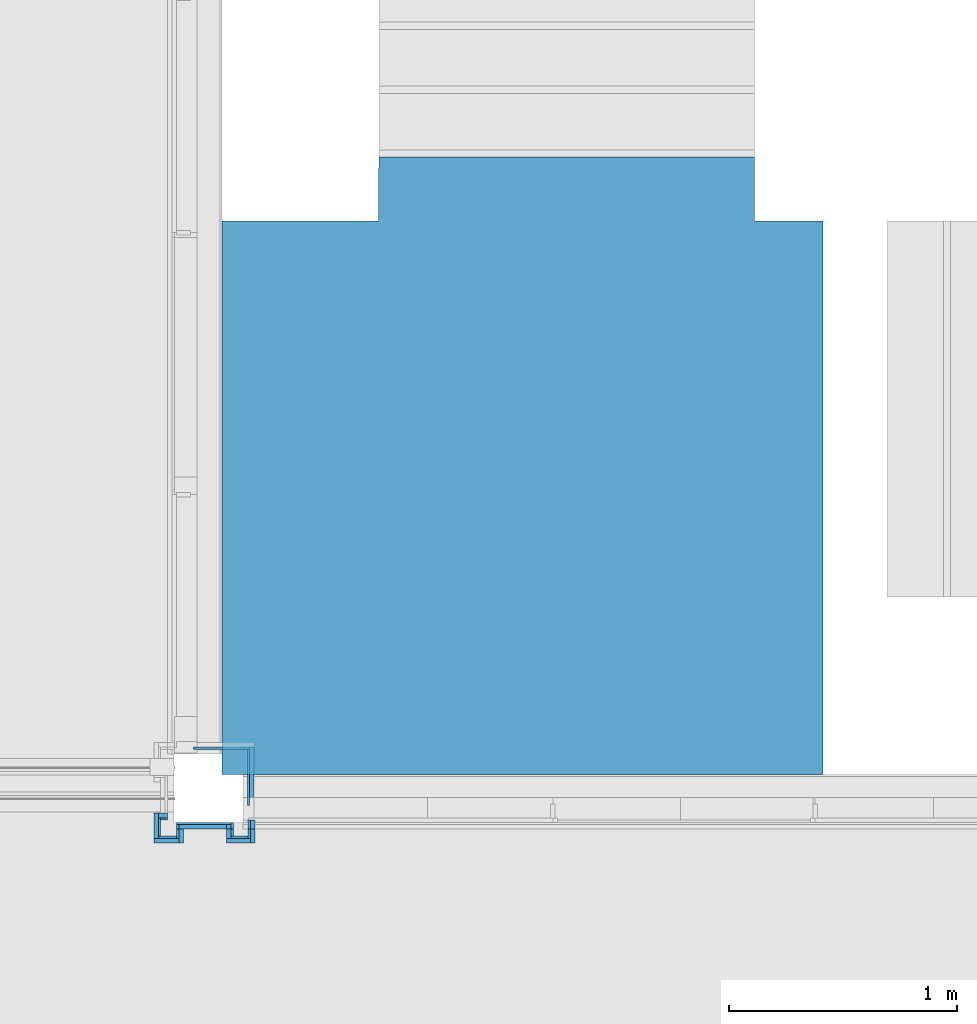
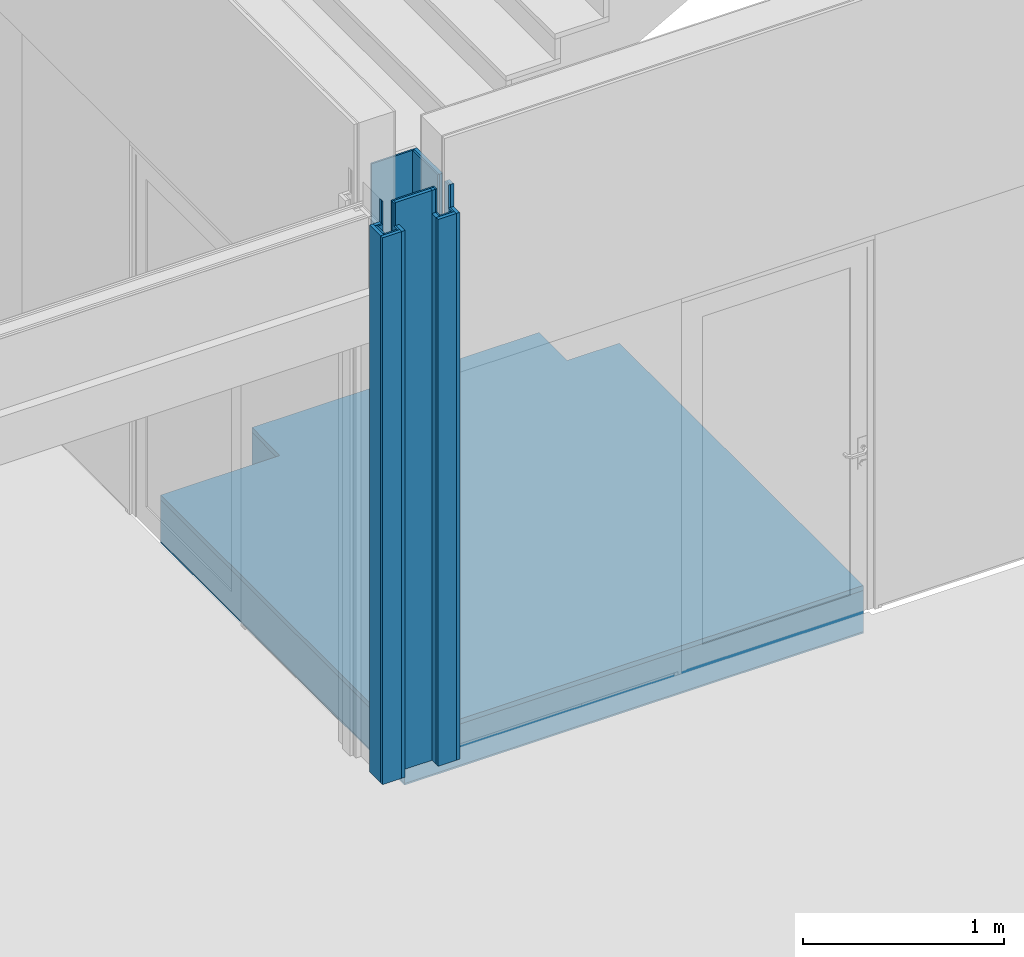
# One storey, part 77 of 139: 22 building element parts, 11 elements without a shape of their own.
"""IFC2X3 building model written with IfcOpenShell, lengths in millimetres."""

import ifcopenshell
import ifcopenshell.guid

model = None  # the IFC model being written
_history = None  # IfcOwnerHistory: only IFC2X3 demands one
_inside = {}  # id of a spatial element -> (the spatial element, [elements in it])
_under = {}  # id of a project, library or spatial element -> (it, [spatial elements below it])
_declared = {}  # id of a project -> (the project, [libraries it declares])
_typed = {}  # id of a type object -> (the type object, [elements of that type])
_made_of = {}  # id of a material, layer set ... -> (it, [elements and type objects made of it])


def new_model(schema):
    """Start an empty IFC model of exactly this schema.

    Asked for "IFC4X3", IfcOpenShell would pick the latest addendum, in which some entities
    have other attributes; the version numbers below select the first issue.
    IFC2X3 requires an IfcOwnerHistory on every rooted entity: one is made here for all.
    """
    global model, _history
    if schema == "IFC4X3":
        model = ifcopenshell.file(schema_version=(4, 3, 0, 0))
    else:
        model = ifcopenshell.file(schema=schema)
    _inside.clear()
    _under.clear()
    _declared.clear()
    _typed.clear()
    _made_of.clear()
    _history = None
    if model.schema == "IFC2X3":
        org = make("IfcOrganization", Name="unknown")
        user = make(
            "IfcPersonAndOrganization",
            ThePerson=make("IfcPerson", FamilyName="unknown"),
            TheOrganization=org,
        )
        app = make(
            "IfcApplication",
            ApplicationDeveloper=org,
            Version="unknown",
            ApplicationFullName="unknown",
            ApplicationIdentifier="unknown",
        )
        _history = make(
            "IfcOwnerHistory",
            OwningUser=user,
            OwningApplication=app,
            ChangeAction="ADDED",
            CreationDate=0,
        )
    return model


def make(cls, **values):
    """One entity of the class cls with the attributes given. An attribute that is None is left unset."""
    return model.create_entity(
        cls, **{name: value for name, value in values.items() if value is not None}
    )


def entity(cls, *values):
    """Any entity or typed value of the class cls, its attributes in the order of the schema. None: left unset."""
    e = model.create_entity(cls)
    for i, value in enumerate(values):
        if value is not None:
            e[i] = value
    return e


def rooted(cls, **values):
    """An entity with a GlobalId (a new one), such as an element, a storey or a relation."""
    return make(cls, GlobalId=ifcopenshell.guid.new(), OwnerHistory=_history, **values)


def si_unit(unit_type, name, prefix=None):
    """IfcSIUnit, for example si_unit("LENGTHUNIT", "METRE", prefix="MILLI")."""
    return make("IfcSIUnit", UnitType=unit_type, Prefix=prefix, Name=name)


def converted_unit(unit_type, name, factor, base, dimensions=None, offset=None):
    """IfcConversionBasedUnit, such as the inch: factor (a typed value) times the base unit."""
    return make(
        "IfcConversionBasedUnit"
        if offset is None
        else "IfcConversionBasedUnitWithOffset",
        ConversionOffset=offset,
        Dimensions=None
        if dimensions is None
        else entity("IfcDimensionalExponents", *dimensions),
        UnitType=unit_type,
        Name=name,
        ConversionFactor=make(
            "IfcMeasureWithUnit", ValueComponent=factor, UnitComponent=base
        ),
    )


def derived_unit(unit_type, elements):
    """IfcDerivedUnit: a product of units, each with its exponent."""
    return make(
        "IfcDerivedUnit",
        Elements=[
            make("IfcDerivedUnitElement", Unit=unit, Exponent=power)
            for unit, power in elements
        ],
        UnitType=unit_type,
    )


def money_unit(currency):
    """IfcMonetaryUnit."""
    return make("IfcMonetaryUnit", Currency=currency)


def assignment(units):
    """IfcUnitAssignment: the units of a project."""
    return None if units is None else make("IfcUnitAssignment", Units=units)


def point(xyz):
    """IfcCartesianPoint."""
    return None if xyz is None else make("IfcCartesianPoint", Coordinates=xyz)


def direction(xyz):
    """IfcDirection."""
    return None if xyz is None else make("IfcDirection", DirectionRatios=xyz)


def frame(location, z_axis=None, x_axis=None):
    """IfcAxis2Placement3D, a coordinate frame: its origin and axes. An axis left out is left unset."""
    return make(
        "IfcAxis2Placement3D",
        Location=point(location),
        Axis=direction(z_axis),
        RefDirection=direction(x_axis),
    )


def origin_with_axes():
    """The frame at (0, 0, 0) with the z axis (0, 0, 1) and the x axis (1, 0, 0) written out."""
    return frame((0.0, 0.0, 0.0), z_axis=(0.0, 0.0, 1.0), x_axis=(1.0, 0.0, 0.0))


def place(relative_to, where):
    """IfcLocalPlacement: puts the frame where relative to a parent placement (None: the world)."""
    return make(
        "IfcLocalPlacement", PlacementRelTo=relative_to, RelativePlacement=where
    )


def context(
    kind, dimensions, precision=None, world=None, true_north=None, identifier=None
):
    """IfcGeometricRepresentationContext, for example the 3D "Model" context."""
    return make(
        "IfcGeometricRepresentationContext",
        ContextIdentifier=identifier,
        ContextType=kind,
        CoordinateSpaceDimension=dimensions,
        Precision=precision,
        WorldCoordinateSystem=world,
        TrueNorth=true_north,
    )


def subcontext(parent, identifier, kind, view, scale=None):
    """IfcGeometricRepresentationSubContext, for example "Body" below "Model"."""
    return make(
        "IfcGeometricRepresentationSubContext",
        ContextIdentifier=identifier,
        ContextType=kind,
        ParentContext=parent,
        TargetScale=scale,
        TargetView=view,
    )


def project(units=None, contexts=None):
    """IfcProject with its units and contexts."""
    return rooted(
        "IfcProject",
        Name="project",
        RepresentationContexts=contexts,
        UnitsInContext=assignment(units),
    )


def spatial(cls, under=None, at=None, **own):
    """A site, building, storey or space (cls), placed at a placement, below another one or the project."""
    s = rooted(cls, ObjectPlacement=at, **own)
    if under is not None:
        _under.setdefault(under.id(), (under, []))[1].append(s)
    return s


def faces_of(points, faces, orient=None, outer=None):
    """IfcFace entities. A face is a list of loops; a loop is a list of indices into points, from 0.

    orient and outer hold one flag for each loop. By default every Orientation is true, the
    first loop of a face is its IfcFaceOuterBound and the others are IfcFaceBound.
    """
    made = []
    for i, loops in enumerate(faces):
        bounds = []
        for j, loop in enumerate(loops):
            is_outer = j == 0 if outer is None else outer[i][j]
            bounds.append(
                make(
                    "IfcFaceOuterBound" if is_outer else "IfcFaceBound",
                    Bound=make("IfcPolyLoop", Polygon=[points[k] for k in loop]),
                    Orientation=True if orient is None else orient[i][j],
                )
            )
        made.append(make("IfcFace", Bounds=bounds))
    return made


def faceted_brep(points, faces, orient=None, outer=None, voids=None):
    """IfcFacetedBrep: a solid bounded by flat faces; with voids (closed shells), ...WithVoids."""
    shared = [point(p) for p in points]
    hull = make("IfcClosedShell", CfsFaces=faces_of(shared, faces, orient, outer))
    if voids is None:
        return make("IfcFacetedBrep", Outer=hull)
    return make(
        "IfcFacetedBrepWithVoids",
        Outer=hull,
        Voids=[
            make(cls, CfsFaces=faces_of(shared, fs, o, b)) for cls, fs, o, b in voids
        ],
    )


def shape(context_of_items, identifier, shape_type, items):
    """IfcShapeRepresentation: the items that make up one representation, for example the "Body"."""
    return make(
        "IfcShapeRepresentation",
        ContextOfItems=context_of_items,
        RepresentationIdentifier=identifier,
        RepresentationType=shape_type,
        Items=items,
    )


def material(Name=None, Category=None):
    """IfcMaterial."""
    return make("IfcMaterial", Name=Name, Category=Category)


def made_of(thing, what):
    """Note that an element or type object is made of a material, layer set ...; save() writes the relation."""
    if what is not None:
        _made_of.setdefault(what.id(), (what, []))[1].append(thing)
    return thing


def type_object(cls, material=None, **own):
    """A type object (cls), such as IfcWallType, which elements share."""
    return made_of(rooted(cls, **own), material)


def element(
    cls,
    number,
    at=None,
    inside=None,
    cuts=None,
    type_object=None,
    material=None,
    context=None,
    identifier="Body",
    shape_type=None,
    held_by="IfcProductDefinitionShape",
    body=None,
    shapes=None,
    **own,
):
    """One element of the class cls, such as IfcWall. Its Tag is "e" and its number.

    at: its placement. inside: the storey or other place that contains it. cuts: it is an
    opening in that element (IfcRelVoidsElement). A single representation is given by context,
    identifier, shape_type and body (its items); several are given by shapes. held_by: the class
    of the entity that holds the representations. save() writes the other relations.
    """
    e = rooted(cls, Tag="e%d" % number, ObjectPlacement=at, **own)
    if body is not None:
        shapes = [shape(context, identifier, shape_type, body)]
    if shapes is not None:
        e.Representation = make(held_by, Representations=shapes)
    if inside is not None:
        _inside.setdefault(inside.id(), (inside, []))[1].append(e)
    if cuts is not None:
        rooted(
            "IfcRelVoidsElement", RelatingBuildingElement=cuts, RelatedOpeningElement=e
        )
    if type_object is not None:
        _typed.setdefault(type_object.id(), (type_object, []))[1].append(e)
    return made_of(e, material)


def aggregate(whole, parts):
    """IfcRelAggregates: a whole, such as a stair, and the parts it consists of."""
    return rooted("IfcRelAggregates", RelatingObject=whole, RelatedObjects=parts)


def save(model, path):
    """Write the relations noted so far, then the file.

    IfcRelAggregates (storeys below a building ...), IfcRelContainedInSpatialStructure (elements
    in a storey), IfcRelDefinesByType, IfcRelAssociatesMaterial and IfcRelDeclares: one each for
    every whole, place, type object, material and project.
    """
    for whole, parts in _under.values():
        aggregate(whole, parts)
    for where, things in _inside.values():
        rooted(
            "IfcRelContainedInSpatialStructure",
            RelatedElements=things,
            RelatingStructure=where,
        )
    for kind, things in _typed.values():
        rooted("IfcRelDefinesByType", RelatedObjects=things, RelatingType=kind)
    for what, things in _made_of.values():
        rooted("IfcRelAssociatesMaterial", RelatedObjects=things, RelatingMaterial=what)
    for by, libraries in _declared.values():
        rooted("IfcRelDeclares", RelatingContext=by, RelatedDefinitions=libraries)
    model.write(path)


model = new_model("IFC2X3")

# Units and contexts
model_context = context("Model", 3, precision=0.01, world=origin_with_axes(), true_north=direction((0.0, 1.0)))
body_context = subcontext(model_context, "Body", "Model", "MODEL_VIEW")
ifc_project = project(units=[si_unit("LENGTHUNIT", "METRE", prefix="MILLI"), si_unit("AREAUNIT", "SQUARE_METRE"), si_unit("VOLUMEUNIT", "CUBIC_METRE"), converted_unit("PLANEANGLEUNIT", "DEGREE", entity("IfcPlaneAngleMeasure", 0.0174532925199), si_unit("PLANEANGLEUNIT", "RADIAN"), dimensions=[0, 0, 0, 0, 0, 0, 0]), money_unit("EUR"), converted_unit("TIMEUNIT", "Year", entity("IfcTimeMeasure", 31556926.0), si_unit("TIMEUNIT", "SECOND"), dimensions=[0, 0, 1, 0, 0, 0, 0]), si_unit("MASSUNIT", "GRAM", prefix="KILO"), si_unit("THERMODYNAMICTEMPERATUREUNIT", "DEGREE_CELSIUS"), si_unit("LUMINOUSINTENSITYUNIT", "LUMEN"), si_unit("ENERGYUNIT", "JOULE", prefix="MEGA"), derived_unit("THERMALCONDUCTANCEUNIT", [(si_unit("POWERUNIT", "WATT"), 1), (si_unit("LENGTHUNIT", "METRE"), -1), (si_unit("THERMODYNAMICTEMPERATUREUNIT", "KELVIN"), -1)]), derived_unit("SPECIFICHEATCAPACITYUNIT", [(si_unit("ENERGYUNIT", "JOULE"), 1), (si_unit("MASSUNIT", "GRAM", prefix="KILO"), -1), (si_unit("THERMODYNAMICTEMPERATUREUNIT", "KELVIN"), -1)]), derived_unit("MASSDENSITYUNIT", [(si_unit("MASSUNIT", "GRAM", prefix="KILO"), 1), (si_unit("VOLUMEUNIT", "CUBIC_METRE"), -1)])], contexts=[model_context])

# Site, building, storey
site_placement = place(None, origin_with_axes())
site = spatial("IfcSite", under=ifc_project, at=site_placement, Name="Kolde pst 67a", CompositionType="ELEMENT")
building_placement = place(site_placement, origin_with_axes())
building = spatial("IfcBuilding", under=site, at=building_placement, Name="Riigigümnaasium", CompositionType="ELEMENT")
storey_placement = place(building_placement, frame((0.0, 0.0, 4600.0), z_axis=(0.0, 0.0, 1.0), x_axis=(1.0, 0.0, 0.0)))
storey = spatial("IfcBuildingStorey", under=building, at=storey_placement, Name="2. korrus", CompositionType="ELEMENT", Elevation=4600.0)

# Slab, building element parts
slab_type = type_object("IfcSlabType", Name="VL-RB-25/1_+puitkilp trepikodades 290", PredefinedType="NOTDEFINED")
slab_placement = place(storey_placement, frame((52829.9941077, 28829.9996998, 0.0), z_axis=(0.0, 0.0, 1.0), x_axis=(1.0, 0.0, 0.0)))
slab = element("IfcSlab", 1, at=slab_placement, inside=storey, type_object=slab_type, Name="VAHELAGI", PredefinedType="NOTDEFINED")
ifc_material_1 = material(Name="_VIIMISTLUSKIHT - viimistlus vastavalt SA osale")
building_element_part_1_placement = place(slab_placement, origin_with_axes())
building_element_part_1 = element("IfcBuildingElementPart", 2, at=building_element_part_1_placement, material=ifc_material_1, Name="_VIIMISTLUSKIHT - viimistlus vastavalt SA osale", context=body_context, shape_type="Brep", body=[
    faceted_brep([(2634.99280441, 0.0, -30.0), (2634.99280441, 0.0, 0.0), (0.0, 0.0, 0.0), (0.0, 0.0, -30.0), (2634.98381669, 2427.46173926, -30.0), (2634.98381669, 2427.46173926, 0.0), (2334.80656677, 2427.44522128, 0.0), (2334.80656677, 2707.46872414, 0.0), (686.758389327, 2707.46872414, 0.0), (684.927526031, 2427.46173926, 0.0), (4.04852258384e-05, 2427.46173926, 0.0), (4.04852258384e-05, 2427.46173926, -30.0), (684.927526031, 2427.46173926, -30.0), (686.758389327, 2707.46872414, -30.0), (2334.80656677, 2707.46872414, -30.0), (2334.80656677, 2427.44522128, -30.0)], [[[0, 1, 2, 3]], [[4, 5, 1, 0]], [[2, 1, 5, 6, 7, 8, 9, 10]], [[3, 2, 10, 11]], [[3, 11, 12, 13, 14, 15, 4, 0]], [[15, 6, 5, 4]], [[14, 7, 6, 15]], [[13, 8, 7, 14]], [[12, 9, 8, 13]], [[11, 10, 9, 12]]]),
])
ifc_material_2 = material(Name="_KANDETARIND - monteeritav raudbetoon vastavalt EK osale")
building_element_part_2_placement = place(slab_placement, origin_with_axes())
building_element_part_2 = element("IfcBuildingElementPart", 3, at=building_element_part_2_placement, material=ifc_material_2, Name="_KANDETARIND - monteeritav raudbetoon vastavalt EK osale", context=body_context, shape_type="Brep", body=[
    faceted_brep([(2634.99280441, 0.0, -280.0), (2634.99280441, 0.0, -30.0), (0.0, 0.0, -30.0), (0.0, 0.0, -280.0), (2634.98381669, 2427.46173926, -280.0), (2634.98381669, 2427.46173926, -30.0), (2334.80656677, 2427.44522128, -30.0), (2334.80656677, 2707.46872414, -30.0), (686.758389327, 2707.46872414, -30.0), (684.927526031, 2427.46173926, -30.0), (4.04852258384e-05, 2427.46173926, -30.0), (4.04852258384e-05, 2427.46173926, -280.0), (684.927526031, 2427.46173926, -280.0), (686.758389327, 2707.46872414, -280.0), (2334.80656677, 2707.46872414, -280.0), (2334.80656677, 2427.44522128, -280.0)], [[[0, 1, 2, 3]], [[4, 5, 1, 0]], [[2, 1, 5, 6, 7, 8, 9, 10]], [[3, 2, 10, 11]], [[3, 11, 12, 13, 14, 15, 4, 0]], [[15, 6, 5, 4]], [[14, 7, 6, 15]], [[13, 8, 7, 14]], [[12, 9, 8, 13]], [[11, 10, 9, 12]]]),
])
building_element_part_3_placement = place(slab_placement, origin_with_axes())
building_element_part_3 = element("IfcBuildingElementPart", 4, at=building_element_part_3_placement, material=ifc_material_1, Name="_VIIMISTLUSKIHT - viimistlus vastavalt SA osale", context=body_context, shape_type="Brep", body=[
    faceted_brep([(0.0, 0.0, -290.0), (2634.99280441, 0.0, -290.0), (2634.99280441, 0.0, -280.0), (0.0, 0.0, -280.0), (4.04852258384e-05, 2427.46173926, -290.0), (684.927526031, 2427.46173926, -290.0), (686.758389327, 2707.46872414, -290.0), (2334.80656677, 2707.46872414, -290.0), (2334.80656677, 2427.44522128, -290.0), (2634.98381669, 2427.46173926, -290.0), (2634.98381669, 2427.46173926, -280.0), (2334.80656677, 2427.44522128, -280.0), (2334.80656677, 2707.46872414, -280.0), (686.758389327, 2707.46872414, -280.0), (684.927526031, 2427.46173926, -280.0), (4.04852258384e-05, 2427.46173926, -280.0)], [[[0, 1, 2, 3]], [[0, 4, 5, 6, 7, 8, 9, 1]], [[1, 9, 10, 2]], [[3, 2, 10, 11, 12, 13, 14, 15]], [[4, 0, 3, 15]], [[5, 4, 15, 14]], [[6, 5, 14, 13]], [[7, 6, 13, 12]], [[8, 7, 12, 11]], [[9, 8, 11, 10]]]),
])
aggregate(slab, [building_element_part_1, building_element_part_2, building_element_part_3])

# Wall, building element part
wall_type = type_object("IfcWallType", Name="SS-MK-1/1_1x dold pinnakiht 30", PredefinedType="NOTDEFINED")
wall_1_placement = place(storey_placement, frame((52703.9941222, 28939.999656, 0.0), z_axis=(0.0, 0.0, 1.0), x_axis=(1.0, 0.0, 0.0)))
wall_1 = element("IfcWall", 5, at=wall_1_placement, inside=storey, type_object=wall_type, Name="Sisesein")
ifc_material_3 = material(Name="_KARKASS - eriprofiilkinnitus vastavalt sisemisele plaatviimistlusele")
building_element_part_4_placement = place(wall_1_placement, origin_with_axes())
building_element_part_4 = element("IfcBuildingElementPart", 6, at=building_element_part_4_placement, material=ifc_material_3, Name="_KARKASS - eriprofiilkinnitus vastavalt sisemisele plaatviimistlusele", context=body_context, shape_type="Brep", body=[
    faceted_brep([(245.995100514, 0.0, 0.0), (0.0, 0.0, 0.0), (0.0, 10.0, 0.0), (245.995100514, 10.0, 0.0), (245.995100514, 0.0, 3460.0), (0.0, 0.0, 3460.0), (0.0, 10.0, 3460.0), (245.995100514, 10.0, 3460.0)], [[[0, 1, 2, 3]], [[4, 5, 1, 0]], [[2, 1, 5, 6]], [[3, 2, 6, 7]], [[3, 7, 4, 0]], [[7, 6, 5, 4]]]),
])
aggregate(wall_1, [building_element_part_4])

# Wall, building element parts
wall_2_placement = place(storey_placement, frame((52939.9892227, 28939.999656, 0.0), z_axis=(0.0, 0.0, 1.0), x_axis=(0.0, -1.0, 0.0)))
wall_2 = element("IfcWall", 7, at=wall_2_placement, inside=storey, type_object=wall_type, Name="Sisesein")
ifc_material_4 = material(Name="_VIIMISTLUSKIHT - Dold plaat vastavalt SA osale")
building_element_part_5_placement = place(wall_2_placement, origin_with_axes())
building_element_part_5 = element("IfcBuildingElementPart", 8, at=building_element_part_5_placement, material=ifc_material_4, Name="_VIIMISTLUSKIHT - Dold plaat vastavalt SA osale", context=body_context, shape_type="Brep", body=[
    faceted_brep([(246.862645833, 30.0, 0.0), (246.862645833, 10.0, 0.0), (-10.0, 10.0, 0.0), (-10.0, 30.0, 0.0), (246.862645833, 30.0, 3460.0), (246.862645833, 10.0, 3460.0), (-10.0, 10.0, 3460.0), (-10.0, 30.0, 3460.0)], [[[0, 1, 2, 3]], [[0, 4, 5, 1]], [[1, 5, 6, 2]], [[3, 2, 6, 7]], [[4, 0, 3, 7]], [[5, 4, 7, 6]]]),
])
building_element_part_6_placement = place(wall_2_placement, origin_with_axes())
building_element_part_6 = element("IfcBuildingElementPart", 9, at=building_element_part_6_placement, material=ifc_material_3, Name="_KARKASS - eriprofiilkinnitus vastavalt sisemisele plaatviimistlusele", context=body_context, shape_type="Brep", body=[
    faceted_brep([(246.862645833, 10.0, 0.0), (246.862645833, 0.0, 0.0), (0.0, 0.0, 0.0), (0.0, 10.0, 0.0), (246.862645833, 10.0, 3460.0), (246.862645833, 0.0, 3460.0), (0.0, 0.0, 3460.0), (0.0, 10.0, 3460.0)], [[[0, 1, 2, 3]], [[0, 4, 5, 1]], [[1, 5, 6, 2]], [[3, 2, 6, 7]], [[4, 0, 3, 7]], [[5, 4, 7, 6]]]),
])
aggregate(wall_2, [building_element_part_5, building_element_part_6])

wall_3_placement = place(storey_placement, frame((52943.7838709, 28629.9996643, 0.0), z_axis=(0.0, 0.0, 1.0), x_axis=(0.0, -1.0, 0.0)))
wall_3 = element("IfcWall", 10, at=wall_3_placement, inside=storey, type_object=wall_type, Name="Sisesein")
building_element_part_7_placement = place(wall_3_placement, origin_with_axes())
building_element_part_7 = element("IfcBuildingElementPart", 11, at=building_element_part_7_placement, material=ifc_material_4, Name="_VIIMISTLUSKIHT - Dold plaat vastavalt SA osale", context=body_context, shape_type="Brep", body=[
    faceted_brep([(40.0000082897, 10.0, 3460.0), (40.0000082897, 30.0, 3460.0), (0.0, 30.0, 3460.0), (0.0, 10.0, 3460.0), (40.0000082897, 30.0, 3320.0), (40.0000082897, 10.0, 3320.0), (100.00000829, 30.0, 3320.0), (100.00000829, 30.0, 0.0), (0.0, 30.0, 0.0), (0.0, 10.0, 0.0), (100.00000829, 10.0, 0.0), (100.00000829, 10.0, 3320.0)], [[[0, 1, 2, 3]], [[4, 1, 0, 5]], [[4, 6, 7, 8, 2, 1]], [[2, 8, 9, 3]], [[5, 0, 3, 9, 10, 11]], [[6, 4, 5, 11]], [[6, 11, 10, 7]], [[7, 10, 9, 8]]]),
])
building_element_part_8_placement = place(wall_3_placement, origin_with_axes())
building_element_part_8 = element("IfcBuildingElementPart", 12, at=building_element_part_8_placement, material=ifc_material_3, Name="_KARKASS - eriprofiilkinnitus vastavalt sisemisele plaatviimistlusele", context=body_context, shape_type="Brep", body=[
    faceted_brep([(40.0000082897, 0.0, 3460.0), (40.0000082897, 10.0, 3460.0), (0.0, 10.0, 3460.0), (0.0, 0.0, 3460.0), (40.0000082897, 10.0, 3320.0), (40.0000082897, 0.0, 3320.0), (80.0000082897, 10.0, 3320.0), (80.0000082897, 10.0, 0.0), (0.0, 10.0, 0.0), (0.0, 0.0, 0.0), (80.0000082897, 0.0, 0.0), (80.0000082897, 0.0, 3320.0)], [[[0, 1, 2, 3]], [[4, 1, 0, 5]], [[4, 6, 7, 8, 2, 1]], [[2, 8, 9, 3]], [[5, 0, 3, 9, 10, 11]], [[6, 4, 5, 11]], [[6, 11, 10, 7]], [[7, 10, 9, 8]]]),
])
aggregate(wall_3, [building_element_part_7, building_element_part_8])

wall_4_placement = place(storey_placement, frame((52943.7838709, 28559.999656, 0.0), z_axis=(0.0, 0.0, 1.0), x_axis=(-1.0, 0.0, 0.0)))
wall_4 = element("IfcWall", 13, at=wall_4_placement, inside=storey, type_object=wall_type, Name="Sisesein")
building_element_part_9_placement = place(wall_4_placement, origin_with_axes())
building_element_part_9 = element("IfcBuildingElementPart", 14, at=building_element_part_9_placement, material=ifc_material_4, Name="_VIIMISTLUSKIHT - Dold plaat vastavalt SA osale", context=body_context, shape_type="Brep", body=[
    faceted_brep([(94.9999974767, 10.0, 3320.0), (-10.0, 10.0, 3320.0), (-10.0, 10.0, 0.0), (94.9999974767, 10.0, 0.0), (-10.0, 30.0, 3320.0), (94.9999974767, 30.0, 3320.0), (-10.0, 30.0, 0.0), (94.9999974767, 30.0, 0.0)], [[[0, 1, 2, 3]], [[4, 1, 0, 5]], [[1, 4, 6, 2]], [[7, 3, 2, 6]], [[5, 0, 3, 7]], [[4, 5, 7, 6]]]),
])
building_element_part_10_placement = place(wall_4_placement, origin_with_axes())
building_element_part_10 = element("IfcBuildingElementPart", 15, at=building_element_part_10_placement, material=ifc_material_3, Name="_KARKASS - eriprofiilkinnitus vastavalt sisemisele plaatviimistlusele", context=body_context, shape_type="Brep", body=[
    faceted_brep([(74.9999974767, 0.0, 3320.0), (0.0, 0.0, 3320.0), (0.0, 0.0, 0.0), (74.9999974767, 0.0, 0.0), (0.0, 10.0, 3320.0), (74.9999974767, 10.0, 3320.0), (0.0, 10.0, 0.0), (74.9999974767, 10.0, 0.0)], [[[0, 1, 2, 3]], [[4, 1, 0, 5]], [[1, 4, 6, 2]], [[7, 3, 2, 6]], [[5, 0, 3, 7]], [[4, 5, 7, 6]]]),
])
aggregate(wall_4, [building_element_part_9, building_element_part_10])

wall_5_placement = place(storey_placement, frame((52878.7838734, 28559.999656, 0.0), z_axis=(0.0, 0.0, 1.0), x_axis=(0.0, 1.0, 0.0)))
wall_5 = element("IfcWall", 16, at=wall_5_placement, inside=storey, type_object=wall_type, Name="Sisesein")
building_element_part_11_placement = place(wall_5_placement, origin_with_axes())
building_element_part_11 = element("IfcBuildingElementPart", 17, at=building_element_part_11_placement, material=ifc_material_4, Name="_VIIMISTLUSKIHT - Dold plaat vastavalt SA osale", context=body_context, shape_type="Brep", body=[
    faceted_brep([(30.0, 30.0, 3460.0), (30.0, 10.0, 3460.0), (50.0, 10.0, 3460.0), (50.0, 30.0, 3460.0), (30.0, 10.0, 3320.0), (30.0, 30.0, 3320.0), (-10.0, 10.0, 3320.0), (-10.0, 10.0, 0.0), (50.0, 10.0, 0.0), (50.0, 30.0, 0.0), (-10.0, 30.0, 0.0), (-10.0, 30.0, 3320.0)], [[[0, 1, 2, 3]], [[4, 1, 0, 5]], [[4, 6, 7, 8, 2, 1]], [[8, 9, 3, 2]], [[5, 0, 3, 9, 10, 11]], [[6, 4, 5, 11]], [[6, 11, 10, 7]], [[9, 8, 7, 10]]]),
])
building_element_part_12_placement = place(wall_5_placement, origin_with_axes())
building_element_part_12 = element("IfcBuildingElementPart", 18, at=building_element_part_12_placement, material=ifc_material_3, Name="_KARKASS - eriprofiilkinnitus vastavalt sisemisele plaatviimistlusele", context=body_context, shape_type="Brep", body=[
    faceted_brep([(30.0, 10.0, 3460.0), (30.0, 0.0, 3460.0), (60.0, 0.0, 3460.0), (60.0, 10.0, 3460.0), (30.0, 0.0, 3320.0), (30.0, 10.0, 3320.0), (0.0, 0.0, 3320.0), (0.0, 0.0, 0.0), (60.0, 0.0, 0.0), (60.0, 10.0, 0.0), (0.0, 10.0, 0.0), (0.0, 10.0, 3320.0)], [[[0, 1, 2, 3]], [[4, 1, 0, 5]], [[4, 6, 7, 8, 2, 1]], [[8, 9, 3, 2]], [[5, 0, 3, 9, 10, 11]], [[6, 4, 5, 11]], [[6, 11, 10, 7]], [[9, 8, 7, 10]]]),
])
aggregate(wall_5, [building_element_part_11, building_element_part_12])

wall_6_placement = place(storey_placement, frame((52878.7838734, 28619.999656, 0.0), z_axis=(0.0, 0.0, 1.0), x_axis=(-1.0, 0.0, 0.0)))
wall_6 = element("IfcWall", 19, at=wall_6_placement, inside=storey, type_object=wall_type, Name="Sisesein")
building_element_part_13_placement = place(wall_6_placement, origin_with_axes())
building_element_part_13 = element("IfcBuildingElementPart", 20, at=building_element_part_13_placement, material=ifc_material_4, Name="_VIIMISTLUSKIHT - Dold plaat vastavalt SA osale", context=body_context, shape_type="Brep", body=[
    faceted_brep([(238.789751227, 10.0, 0.0), (30.0, 10.0, 0.0), (30.0, 30.0, 0.0), (238.789751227, 30.0, 0.0), (238.789751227, 10.0, 3460.0), (30.0, 10.0, 3460.0), (30.0, 30.0, 3460.0), (238.789751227, 30.0, 3460.0)], [[[0, 1, 2, 3]], [[4, 5, 1, 0]], [[2, 1, 5, 6]], [[3, 2, 6, 7]], [[3, 7, 4, 0]], [[7, 6, 5, 4]]]),
])
building_element_part_14_placement = place(wall_6_placement, origin_with_axes())
building_element_part_14 = element("IfcBuildingElementPart", 21, at=building_element_part_14_placement, material=ifc_material_3, Name="_KARKASS - eriprofiilkinnitus vastavalt sisemisele plaatviimistlusele", context=body_context, shape_type="Brep", body=[
    faceted_brep([(248.789751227, 0.0, 0.0), (10.0, 0.0, 0.0), (10.0, 10.0, 0.0), (248.789751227, 10.0, 0.0), (248.789751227, 0.0, 3460.0), (10.0, 0.0, 3460.0), (10.0, 10.0, 3460.0), (248.789751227, 10.0, 3460.0)], [[[0, 1, 2, 3]], [[4, 5, 1, 0]], [[2, 1, 5, 6]], [[3, 2, 6, 7]], [[3, 7, 4, 0]], [[7, 6, 5, 4]]]),
])
aggregate(wall_6, [building_element_part_13, building_element_part_14])

wall_7_placement = place(storey_placement, frame((52629.9941222, 28619.999656, 0.0), z_axis=(0.0, 0.0, 1.0), x_axis=(0.0, -1.0, 0.0)))
wall_7 = element("IfcWall", 22, at=wall_7_placement, inside=storey, type_object=wall_type, Name="Sisesein")
building_element_part_15_placement = place(wall_7_placement, origin_with_axes())
building_element_part_15 = element("IfcBuildingElementPart", 23, at=building_element_part_15_placement, material=ifc_material_4, Name="_VIIMISTLUSKIHT - Dold plaat vastavalt SA osale", context=body_context, shape_type="Brep", body=[
    faceted_brep([(30.0, 10.0, 3320.0), (30.0, 30.0, 3320.0), (30.0, 30.0, 0.0), (30.0, 10.0, 0.0), (90.0, 30.0, 3320.0), (90.0, 10.0, 3320.0), (90.0, 30.0, 0.0), (90.0, 10.0, 0.0)], [[[0, 1, 2, 3]], [[4, 1, 0, 5]], [[1, 4, 6, 2]], [[6, 7, 3, 2]], [[5, 0, 3, 7]], [[4, 5, 7, 6]]]),
])
building_element_part_16_placement = place(wall_7_placement, origin_with_axes())
building_element_part_16 = element("IfcBuildingElementPart", 24, at=building_element_part_16_placement, material=ifc_material_3, Name="_KARKASS - eriprofiilkinnitus vastavalt sisemisele plaatviimistlusele", context=body_context, shape_type="Brep", body=[
    faceted_brep([(30.0, 0.0, 3460.0), (30.0, 10.0, 3460.0), (10.0, 10.0, 3460.0), (10.0, 0.0, 3460.0), (30.0, 10.0, 3320.0), (30.0, 0.0, 3320.0), (70.0, 10.0, 3320.0), (70.0, 10.0, 0.0), (10.0, 10.0, 0.0), (10.0, 0.0, 0.0), (70.0, 0.0, 0.0), (70.0, 0.0, 3320.0)], [[[0, 1, 2, 3]], [[4, 1, 0, 5]], [[4, 6, 7, 8, 2, 1]], [[2, 8, 9, 3]], [[5, 0, 3, 9, 10, 11]], [[6, 4, 5, 11]], [[6, 11, 10, 7]], [[7, 10, 9, 8]]]),
])
aggregate(wall_7, [building_element_part_15, building_element_part_16])

wall_8_placement = place(storey_placement, frame((52629.9941222, 28559.999656, 0.0), z_axis=(0.0, 0.0, 1.0), x_axis=(-1.0, 0.0, 0.0)))
wall_8 = element("IfcWall", 25, at=wall_8_placement, inside=storey, type_object=wall_type, Name="Sisesein")
building_element_part_17_placement = place(wall_8_placement, origin_with_axes())
building_element_part_17 = element("IfcBuildingElementPart", 26, at=building_element_part_17_placement, material=ifc_material_4, Name="_VIIMISTLUSKIHT - Dold plaat vastavalt SA osale", context=body_context, shape_type="Brep", body=[
    faceted_brep([(100.00000341, 10.0, 3320.0), (-10.0, 10.0, 3320.0), (-10.0, 10.0, 0.0), (100.00000341, 10.0, 0.0), (-10.0, 30.0, 3320.0), (100.00000341, 30.0, 3320.0), (-10.0, 30.0, 0.0), (100.00000341, 30.0, 0.0)], [[[0, 1, 2, 3]], [[4, 1, 0, 5]], [[1, 4, 6, 2]], [[7, 3, 2, 6]], [[5, 0, 3, 7]], [[4, 5, 7, 6]]]),
])
building_element_part_18_placement = place(wall_8_placement, origin_with_axes())
building_element_part_18 = element("IfcBuildingElementPart", 27, at=building_element_part_18_placement, material=ifc_material_3, Name="_KARKASS - eriprofiilkinnitus vastavalt sisemisele plaatviimistlusele", context=body_context, shape_type="Brep", body=[
    faceted_brep([(80.0000034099, 0.0, 3320.0), (0.0, 0.0, 3320.0), (0.0, 0.0, 0.0), (80.0000034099, 0.0, 0.0), (0.0, 10.0, 3320.0), (80.0000034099, 10.0, 3320.0), (0.0, 10.0, 0.0), (80.0000034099, 10.0, 0.0)], [[[0, 1, 2, 3]], [[4, 1, 0, 5]], [[1, 4, 6, 2]], [[7, 3, 2, 6]], [[5, 0, 3, 7]], [[4, 5, 7, 6]]]),
])
aggregate(wall_8, [building_element_part_17, building_element_part_18])

wall_9_placement = place(storey_placement, frame((52559.9941188, 28559.999656, 0.0), z_axis=(0.0, 0.0, 1.0), x_axis=(0.0, 1.0, 0.0)))
wall_9 = element("IfcWall", 28, at=wall_9_placement, inside=storey, type_object=wall_type, Name="Sisesein")
building_element_part_19_placement = place(wall_9_placement, origin_with_axes())
building_element_part_19 = element("IfcBuildingElementPart", 29, at=building_element_part_19_placement, material=ifc_material_4, Name="_VIIMISTLUSKIHT - Dold plaat vastavalt SA osale", context=body_context, shape_type="Brep", body=[
    faceted_brep([(100.000000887, 30.0, 3320.0), (100.000000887, 10.0, 3320.0), (100.000000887, 10.0, 0.0), (100.000000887, 30.0, 0.0), (-10.0, 10.0, 3320.0), (-10.0, 30.0, 3320.0), (-10.0, 10.0, 0.0), (-10.0, 30.0, 0.0)], [[[0, 1, 2, 3]], [[4, 1, 0, 5]], [[1, 4, 6, 2]], [[3, 2, 6, 7]], [[5, 0, 3, 7]], [[4, 5, 7, 6]]]),
])
building_element_part_20_placement = place(wall_9_placement, origin_with_axes())
building_element_part_20 = element("IfcBuildingElementPart", 30, at=building_element_part_20_placement, material=ifc_material_3, Name="_KARKASS - eriprofiilkinnitus vastavalt sisemisele plaatviimistlusele", context=body_context, shape_type="Brep", body=[
    faceted_brep([(80.0000008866, 10.0, 3320.0), (80.0000008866, 0.0, 3320.0), (80.0000008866, 0.0, 0.0), (80.0000008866, 10.0, 0.0), (0.0, 0.0, 3320.0), (0.0, 10.0, 3320.0), (0.0, 0.0, 0.0), (0.0, 10.0, 0.0)], [[[0, 1, 2, 3]], [[4, 1, 0, 5]], [[1, 4, 6, 2]], [[3, 2, 6, 7]], [[5, 0, 3, 7]], [[4, 5, 7, 6]]]),
])
aggregate(wall_9, [building_element_part_19, building_element_part_20])

wall_10_placement = place(storey_placement, frame((52559.9941188, 28629.9996569, 0.0), z_axis=(0.0, 0.0, 1.0), x_axis=(1.0, 0.0, 0.0)))
wall_10 = element("IfcWall", 31, at=wall_10_placement, inside=storey, type_object=wall_type, Name="Sisesein")
building_element_part_21_placement = place(wall_10_placement, origin_with_axes())
building_element_part_21 = element("IfcBuildingElementPart", 32, at=building_element_part_21_placement, material=ifc_material_4, Name="_VIIMISTLUSKIHT - Dold plaat vastavalt SA osale", context=body_context, shape_type="Brep", body=[
    faceted_brep([(-10.0, 30.0, 3320.0), (29.0000034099, 30.0, 3320.0), (29.0000034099, 30.0, 3460.0), (30.0000034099, 30.0, 3460.0), (30.0000034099, 30.0, 0.0), (-10.0, 30.0, 0.0), (-10.0, 10.0, 3320.0), (29.0000034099, 10.0, 3320.0), (29.0000034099, 10.0, 3460.0), (30.0000034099, 10.0, 3460.0), (30.0000034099, 10.0, 0.0), (-10.0, 10.0, 0.0)], [[[0, 1, 2, 3, 4, 5]], [[1, 0, 6, 7]], [[8, 2, 1, 7]], [[2, 8, 9, 3]], [[10, 4, 3, 9]], [[5, 4, 10, 11]], [[6, 0, 5, 11]], [[7, 6, 11, 10, 9, 8]]]),
])
building_element_part_22_placement = place(wall_10_placement, origin_with_axes())
building_element_part_22 = element("IfcBuildingElementPart", 33, at=building_element_part_22_placement, material=ifc_material_3, Name="_KARKASS - eriprofiilkinnitus vastavalt sisemisele plaatviimistlusele", context=body_context, shape_type="Brep", body=[
    faceted_brep([(0.0, 10.0, 3320.0), (29.0000034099, 10.0, 3320.0), (29.0000034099, 10.0, 3460.0), (30.0000034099, 10.0, 3460.0), (30.0000034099, 10.0, 0.0), (0.0, 10.0, 0.0), (0.0, 0.0, 3320.0), (29.0000034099, 0.0, 3320.0), (29.0000034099, 0.0, 3460.0), (30.0000034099, 0.0, 3460.0), (30.0000034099, 0.0, 0.0), (0.0, 0.0, 0.0)], [[[0, 1, 2, 3, 4, 5]], [[1, 0, 6, 7]], [[8, 2, 1, 7]], [[2, 8, 9, 3]], [[10, 4, 3, 9]], [[5, 4, 10, 11]], [[6, 0, 5, 11]], [[7, 6, 11, 10, 9, 8]]]),
])
aggregate(wall_10, [building_element_part_21, building_element_part_22])

save(model, "model.ifc")
